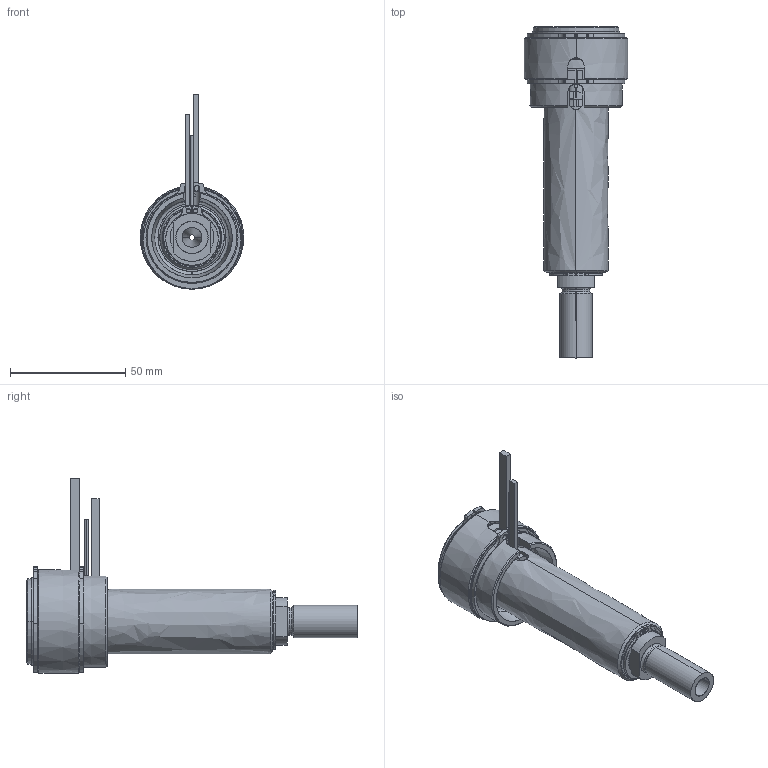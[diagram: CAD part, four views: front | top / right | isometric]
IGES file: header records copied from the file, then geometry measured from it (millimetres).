
Start section: SolidWorks IGES file using analytic representation for surfaces
Global section: file name: C:\Documents and Settings\ws-20\Desktop\TEM\UGBE4502-M-A-P-5 [Ød-2.5 P-25 ØC-09].IGS; native system: SolidWorks 2012; preprocessor: SolidWorks 2012; author: ws-20; date: 120412.153019; units: millimetre
Bounding box: 45 x 144.25 x 84.5 mm (x, y, z)
Surface area: 47255.4 mm2 (no closed solid volume)
Topology: 0 solids, 0 shells, 161 faces, 2999 edges, 2999 vertices
Faces by surface type: revolution 99, bspline 62
